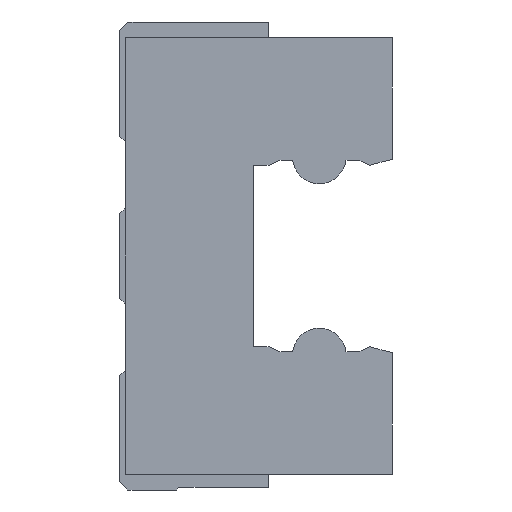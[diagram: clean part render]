
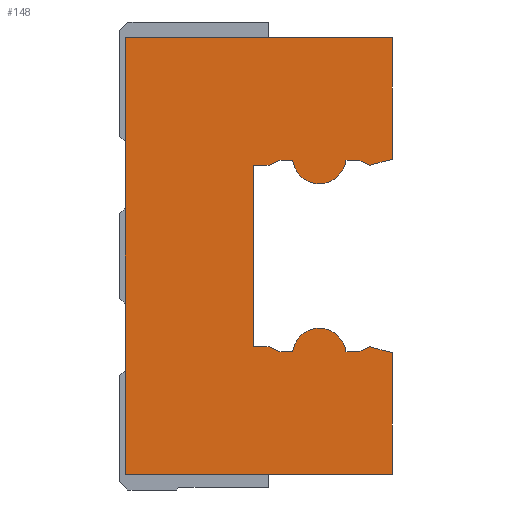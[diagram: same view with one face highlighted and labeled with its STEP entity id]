
A CAD part, left-side view. The second image highlights one B-rep face of the part: STEP entity #148.
In plain terms, the highlighted planar face has unit normal (-1, 0, 0).
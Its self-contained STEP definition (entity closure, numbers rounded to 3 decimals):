
#148 = ADVANCED_FACE( '', ( #300 ), #301, .F. );
#300 = FACE_OUTER_BOUND( '', #452, .T. );
#301 = PLANE( '', #453 );
#452 = EDGE_LOOP( '', ( #1021, #1022, #1023, #1024, #1025, #1026, #1027, #1028, #1029, #1030, #1031, #1032, #1033, #1034, #1035, #1036, #1037, #1038, #1039, #1040 ) );
#453 = AXIS2_PLACEMENT_3D( '', #1041, #1042, #1043 );
#1021 = ORIENTED_EDGE( '', *, *, #1227, .F. );
#1022 = ORIENTED_EDGE( '', *, *, #1174, .F. );
#1023 = ORIENTED_EDGE( '', *, *, #1177, .F. );
#1024 = ORIENTED_EDGE( '', *, *, #1169, .F. );
#1025 = ORIENTED_EDGE( '', *, *, #1180, .F. );
#1026 = ORIENTED_EDGE( '', *, *, #1183, .F. );
#1027 = ORIENTED_EDGE( '', *, *, #1186, .F. );
#1028 = ORIENTED_EDGE( '', *, *, #1189, .F. );
#1029 = ORIENTED_EDGE( '', *, *, #1192, .F. );
#1030 = ORIENTED_EDGE( '', *, *, #1195, .F. );
#1031 = ORIENTED_EDGE( '', *, *, #1198, .F. );
#1032 = ORIENTED_EDGE( '', *, *, #1201, .F. );
#1033 = ORIENTED_EDGE( '', *, *, #1204, .F. );
#1034 = ORIENTED_EDGE( '', *, *, #1207, .F. );
#1035 = ORIENTED_EDGE( '', *, *, #1210, .F. );
#1036 = ORIENTED_EDGE( '', *, *, #1213, .F. );
#1037 = ORIENTED_EDGE( '', *, *, #1216, .F. );
#1038 = ORIENTED_EDGE( '', *, *, #1219, .F. );
#1039 = ORIENTED_EDGE( '', *, *, #1222, .F. );
#1040 = ORIENTED_EDGE( '', *, *, #1225, .F. );
#1041 = CARTESIAN_POINT( '', ( 0., 0., 0. ) );
#1042 = DIRECTION( '', ( 1., 0., 0. ) );
#1043 = DIRECTION( '', ( 0., 0., -1. ) );
#1169 = EDGE_CURVE( '', #1430, #1432, #1433, .T. );
#1174 = EDGE_CURVE( '', #1438, #1440, #1441, .T. );
#1177 = EDGE_CURVE( '', #1432, #1438, #1445, .T. );
#1180 = EDGE_CURVE( '', #1448, #1430, #1450, .T. );
#1183 = EDGE_CURVE( '', #1453, #1448, #1455, .T. );
#1186 = EDGE_CURVE( '', #1458, #1453, #1460, .T. );
#1189 = EDGE_CURVE( '', #1463, #1458, #1465, .T. );
#1192 = EDGE_CURVE( '', #1468, #1463, #1470, .T. );
#1195 = EDGE_CURVE( '', #1473, #1468, #1475, .T. );
#1198 = EDGE_CURVE( '', #1478, #1473, #1480, .T. );
#1201 = EDGE_CURVE( '', #1483, #1478, #1485, .T. );
#1204 = EDGE_CURVE( '', #1488, #1483, #1490, .T. );
#1207 = EDGE_CURVE( '', #1493, #1488, #1495, .T. );
#1210 = EDGE_CURVE( '', #1498, #1493, #1500, .T. );
#1213 = EDGE_CURVE( '', #1503, #1498, #1505, .T. );
#1216 = EDGE_CURVE( '', #1508, #1503, #1510, .T. );
#1219 = EDGE_CURVE( '', #1513, #1508, #1515, .T. );
#1222 = EDGE_CURVE( '', #1518, #1513, #1520, .T. );
#1225 = EDGE_CURVE( '', #1523, #1518, #1525, .T. );
#1227 = EDGE_CURVE( '', #1440, #1523, #1527, .T. );
#1430 = VERTEX_POINT( '', #1830 );
#1432 = VERTEX_POINT( '', #1833 );
#1433 = LINE( '', #1834, #1835 );
#1438 = VERTEX_POINT( '', #1843 );
#1440 = VERTEX_POINT( '', #1846 );
#1441 = LINE( '', #1847, #1848 );
#1445 = LINE( '', #1854, #1855 );
#1448 = VERTEX_POINT( '', #1859 );
#1450 = LINE( '', #1862, #1863 );
#1453 = VERTEX_POINT( '', #1867 );
#1455 = LINE( '', #1870, #1871 );
#1458 = VERTEX_POINT( '', #1875 );
#1460 = LINE( '', #1878, #1879 );
#1463 = VERTEX_POINT( '', #1883 );
#1465 = LINE( '', #1886, #1887 );
#1468 = VERTEX_POINT( '', #1890 );
#1470 = CIRCLE( '', #1893, 1.95 );
#1473 = VERTEX_POINT( '', #1897 );
#1475 = LINE( '', #1900, #1901 );
#1478 = VERTEX_POINT( '', #1905 );
#1480 = LINE( '', #1908, #1909 );
#1483 = VERTEX_POINT( '', #1913 );
#1485 = LINE( '', #1916, #1917 );
#1488 = VERTEX_POINT( '', #1921 );
#1490 = LINE( '', #1924, #1925 );
#1493 = VERTEX_POINT( '', #1929 );
#1495 = LINE( '', #1932, #1933 );
#1498 = VERTEX_POINT( '', #1937 );
#1500 = LINE( '', #1940, #1941 );
#1503 = VERTEX_POINT( '', #1945 );
#1505 = LINE( '', #1948, #1949 );
#1508 = VERTEX_POINT( '', #1952 );
#1510 = CIRCLE( '', #1955, 1.95 );
#1513 = VERTEX_POINT( '', #1959 );
#1515 = LINE( '', #1962, #1963 );
#1518 = VERTEX_POINT( '', #1967 );
#1520 = LINE( '', #1970, #1971 );
#1523 = VERTEX_POINT( '', #1975 );
#1525 = LINE( '', #1978, #1979 );
#1527 = LINE( '', #1982, #1983 );
#1830 = CARTESIAN_POINT( '', ( 0., 0., -15.85 ) );
#1833 = CARTESIAN_POINT( '', ( 0., 19.4, -15.85 ) );
#1834 = CARTESIAN_POINT( '', ( 0., 0., -15.85 ) );
#1835 = VECTOR( '', #2157, 1. );
#1843 = CARTESIAN_POINT( '', ( 0., 19.4, 15.85 ) );
#1846 = CARTESIAN_POINT( '', ( 0., 0., 15.85 ) );
#1847 = CARTESIAN_POINT( '', ( 0., 19.4, 15.85 ) );
#1848 = VECTOR( '', #2162, 1. );
#1854 = CARTESIAN_POINT( '', ( 0., 19.4, -15.85 ) );
#1855 = VECTOR( '', #2165, 1. );
#1859 = CARTESIAN_POINT( '', ( 0., 0., -7.029 ) );
#1862 = CARTESIAN_POINT( '', ( 0., 0., -7.029 ) );
#1863 = VECTOR( '', #2168, 1. );
#1867 = CARTESIAN_POINT( '', ( 0., 1.637, -6.59 ) );
#1870 = CARTESIAN_POINT( '', ( 0., 1.637, -6.59 ) );
#1871 = VECTOR( '', #2171, 1. );
#1875 = CARTESIAN_POINT( '', ( 0., 2.43, -6.96 ) );
#1878 = CARTESIAN_POINT( '', ( 0., 2.43, -6.96 ) );
#1879 = VECTOR( '', #2174, 1. );
#1883 = CARTESIAN_POINT( '', ( 0., 3.365, -6.96 ) );
#1886 = CARTESIAN_POINT( '', ( 0., 3.365, -6.96 ) );
#1887 = VECTOR( '', #2177, 1. );
#1890 = CARTESIAN_POINT( '', ( 0., 7.235, -6.96 ) );
#1893 = AXIS2_PLACEMENT_3D( '', #2182, #2183, #2184 );
#1897 = CARTESIAN_POINT( '', ( 0., 8.157, -6.96 ) );
#1900 = CARTESIAN_POINT( '', ( 0., 8.157, -6.96 ) );
#1901 = VECTOR( '', #2187, 1. );
#1905 = CARTESIAN_POINT( '', ( 0., 8.95, -6.59 ) );
#1908 = CARTESIAN_POINT( '', ( 0., 8.95, -6.59 ) );
#1909 = VECTOR( '', #2190, 1. );
#1913 = CARTESIAN_POINT( '', ( 0., 10.1, -6.59 ) );
#1916 = CARTESIAN_POINT( '', ( 0., 10.1, -6.59 ) );
#1917 = VECTOR( '', #2193, 1. );
#1921 = CARTESIAN_POINT( '', ( 0., 10.1, 6.59 ) );
#1924 = CARTESIAN_POINT( '', ( 0., 10.1, 6.59 ) );
#1925 = VECTOR( '', #2196, 1. );
#1929 = CARTESIAN_POINT( '', ( 0., 8.95, 6.59 ) );
#1932 = CARTESIAN_POINT( '', ( 0., 8.95, 6.59 ) );
#1933 = VECTOR( '', #2199, 1. );
#1937 = CARTESIAN_POINT( '', ( 0., 8.157, 6.96 ) );
#1940 = CARTESIAN_POINT( '', ( 0., 8.157, 6.96 ) );
#1941 = VECTOR( '', #2202, 1. );
#1945 = CARTESIAN_POINT( '', ( 0., 7.235, 6.96 ) );
#1948 = CARTESIAN_POINT( '', ( 0., 7.235, 6.96 ) );
#1949 = VECTOR( '', #2205, 1. );
#1952 = CARTESIAN_POINT( '', ( 0., 3.365, 6.96 ) );
#1955 = AXIS2_PLACEMENT_3D( '', #2210, #2211, #2212 );
#1959 = CARTESIAN_POINT( '', ( 0., 2.43, 6.96 ) );
#1962 = CARTESIAN_POINT( '', ( 0., 2.43, 6.96 ) );
#1963 = VECTOR( '', #2215, 1. );
#1967 = CARTESIAN_POINT( '', ( 0., 1.637, 6.59 ) );
#1970 = CARTESIAN_POINT( '', ( 0., 1.637, 6.59 ) );
#1971 = VECTOR( '', #2218, 1. );
#1975 = CARTESIAN_POINT( '', ( 0., 0., 7.029 ) );
#1978 = CARTESIAN_POINT( '', ( 0., 0., 7.029 ) );
#1979 = VECTOR( '', #2221, 1. );
#1982 = CARTESIAN_POINT( '', ( 0., 0., 15.85 ) );
#1983 = VECTOR( '', #2223, 1. );
#2157 = DIRECTION( '', ( 0., 1., 0. ) );
#2162 = DIRECTION( '', ( 0., -1., 0. ) );
#2165 = DIRECTION( '', ( 0., 0., 1. ) );
#2168 = DIRECTION( '', ( 0., 0., -1. ) );
#2171 = DIRECTION( '', ( 0., -0.966, -0.259 ) );
#2174 = DIRECTION( '', ( 0., -0.906, 0.423 ) );
#2177 = DIRECTION( '', ( 0., -1., 0. ) );
#2182 = CARTESIAN_POINT( '', ( 0., 5.3, -7.2 ) );
#2183 = DIRECTION( '', ( 1., 0., 0. ) );
#2184 = DIRECTION( '', ( 0., 0.992, 0.123 ) );
#2187 = DIRECTION( '', ( 0., -1., 0. ) );
#2190 = DIRECTION( '', ( 0., -0.906, -0.423 ) );
#2193 = DIRECTION( '', ( 0., -1., 0. ) );
#2196 = DIRECTION( '', ( 0., 0., -1. ) );
#2199 = DIRECTION( '', ( 0., 1., 0. ) );
#2202 = DIRECTION( '', ( 0., 0.906, -0.423 ) );
#2205 = DIRECTION( '', ( 0., 1., 0. ) );
#2210 = CARTESIAN_POINT( '', ( 0., 5.3, 7.2 ) );
#2211 = DIRECTION( '', ( 1., 0., 0. ) );
#2212 = DIRECTION( '', ( 0., -0.992, -0.123 ) );
#2215 = DIRECTION( '', ( 0., 1., 0. ) );
#2218 = DIRECTION( '', ( 0., 0.906, 0.423 ) );
#2221 = DIRECTION( '', ( 0., 0.966, -0.259 ) );
#2223 = DIRECTION( '', ( 0., 0., -1. ) );
